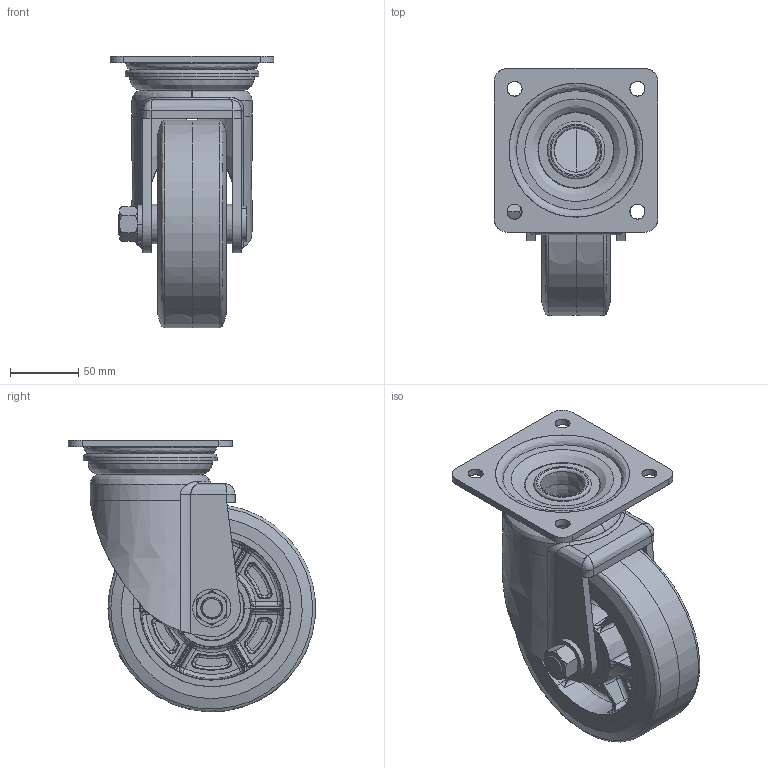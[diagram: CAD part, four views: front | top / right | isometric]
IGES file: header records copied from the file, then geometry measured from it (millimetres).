
Start section: JAMA-IS VERSION  1.0
Global section: file name: C:\CAM-TOOL data\ToolsFile\INOAC車輪\5月\HP-150WJ\HP-150WJ-ALL.igs; native system: CAM-TOOL; preprocessor: C3out Version 11.1.1.50212 (2015/02/12); author: NONE; organization: NONE; date: 230626.165434; units: millimetre
Bounding box: 120 x 180.99 x 199 mm (x, y, z)
Surface area: 277475.3 mm2 (no closed solid volume)
Topology: 0 solids, 0 shells, 932 faces, 11278 edges, 11805 vertices
Faces by surface type: bspline 932
